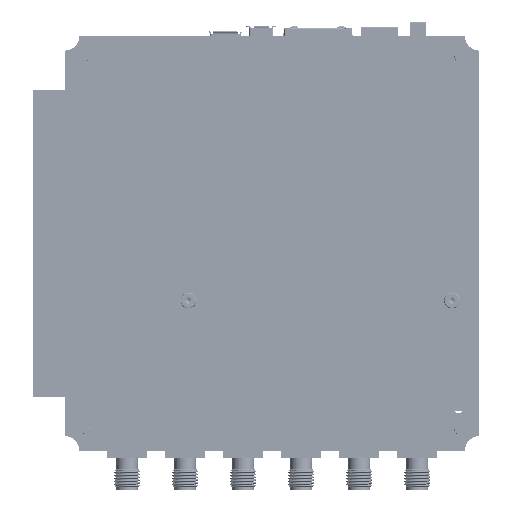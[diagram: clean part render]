
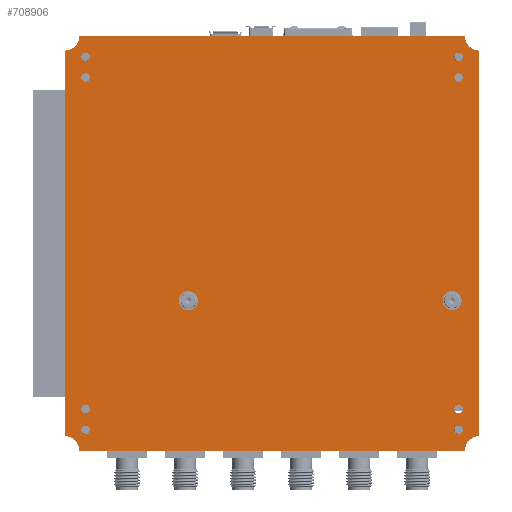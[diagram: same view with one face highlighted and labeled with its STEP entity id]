
A CAD part, front view. The second image highlights one B-rep face of the part: STEP entity #708906.
In plain terms, the highlighted planar face has unit normal (0, -1, 0) as drawn and (0, 0, -1) by its records, which use the part's own axes.
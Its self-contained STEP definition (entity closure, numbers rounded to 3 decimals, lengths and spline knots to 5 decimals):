
#14243=CIRCLE('',#783877,0.0035);
#14244=CIRCLE('',#783879,0.0035);
#14245=CIRCLE('',#783881,0.0035);
#14247=CIRCLE('',#783884,0.0035);
#14250=CIRCLE('',#783890,0.0023);
#14251=CIRCLE('',#783891,0.0023);
#14252=CIRCLE('',#783892,0.00103);
#14253=CIRCLE('',#783893,0.00103);
#14254=CIRCLE('',#783894,0.00103);
#14255=CIRCLE('',#783895,0.00103);
#14256=CIRCLE('',#783896,0.00103);
#14257=CIRCLE('',#783897,0.00103);
#14258=CIRCLE('',#783898,0.00103);
#14259=CIRCLE('',#783899,0.00103);
#51904=ORIENTED_EDGE('',*,*,#250876,.F.);
#51905=ORIENTED_EDGE('',*,*,#250877,.F.);
#51906=ORIENTED_EDGE('',*,*,#250878,.F.);
#51907=ORIENTED_EDGE('',*,*,#250879,.F.);
#51908=ORIENTED_EDGE('',*,*,#250880,.F.);
#51909=ORIENTED_EDGE('',*,*,#250881,.F.);
#51910=ORIENTED_EDGE('',*,*,#250882,.F.);
#51911=ORIENTED_EDGE('',*,*,#250883,.F.);
#51912=ORIENTED_EDGE('',*,*,#250884,.F.);
#51913=ORIENTED_EDGE('',*,*,#250885,.F.);
#51914=ORIENTED_EDGE('',*,*,#250862,.T.);
#51915=ORIENTED_EDGE('',*,*,#250871,.F.);
#51916=ORIENTED_EDGE('',*,*,#250867,.T.);
#51917=ORIENTED_EDGE('',*,*,#250776,.T.);
#51918=ORIENTED_EDGE('',*,*,#250865,.F.);
#51919=ORIENTED_EDGE('',*,*,#250786,.T.);
#51920=ORIENTED_EDGE('',*,*,#250864,.T.);
#51921=ORIENTED_EDGE('',*,*,#250839,.F.);
#250776=EDGE_CURVE('',#351470,#351469,#420215,.T.);
#250786=EDGE_CURVE('',#351480,#351479,#420225,.T.);
#250839=EDGE_CURVE('',#351525,#351526,#420260,.T.);
#250862=EDGE_CURVE('',#351525,#351540,#14243,.T.);
#250864=EDGE_CURVE('',#351479,#351526,#14244,.T.);
#250865=EDGE_CURVE('',#351480,#351469,#14245,.T.);
#250867=EDGE_CURVE('',#351541,#351470,#14247,.T.);
#250871=EDGE_CURVE('',#351541,#351540,#420281,.T.);
#250876=EDGE_CURVE('',#351546,#351546,#14250,.T.);
#250877=EDGE_CURVE('',#351547,#351547,#14251,.T.);
#250878=EDGE_CURVE('',#351548,#351548,#14252,.T.);
#250879=EDGE_CURVE('',#351549,#351549,#14253,.T.);
#250880=EDGE_CURVE('',#351550,#351550,#14254,.T.);
#250881=EDGE_CURVE('',#351551,#351551,#14255,.T.);
#250882=EDGE_CURVE('',#351552,#351552,#14256,.T.);
#250883=EDGE_CURVE('',#351553,#351553,#14257,.T.);
#250884=EDGE_CURVE('',#351554,#351554,#14258,.T.);
#250885=EDGE_CURVE('',#351555,#351555,#14259,.T.);
#351469=VERTEX_POINT('',#1050720);
#351470=VERTEX_POINT('',#1050722);
#351479=VERTEX_POINT('',#1050741);
#351480=VERTEX_POINT('',#1050743);
#351525=VERTEX_POINT('',#1050848);
#351526=VERTEX_POINT('',#1050850);
#351540=VERTEX_POINT('',#1050892);
#351541=VERTEX_POINT('',#1050901);
#351546=VERTEX_POINT('',#1050918);
#351547=VERTEX_POINT('',#1050920);
#351548=VERTEX_POINT('',#1050922);
#351549=VERTEX_POINT('',#1050924);
#351550=VERTEX_POINT('',#1050926);
#351551=VERTEX_POINT('',#1050928);
#351552=VERTEX_POINT('',#1050930);
#351553=VERTEX_POINT('',#1050932);
#351554=VERTEX_POINT('',#1050934);
#351555=VERTEX_POINT('',#1050936);
#420215=LINE('',#1050721,#507567);
#420225=LINE('',#1050742,#507577);
#420260=LINE('',#1050849,#507612);
#420281=LINE('',#1050908,#507633);
#507567=VECTOR('',#849691,1.);
#507577=VECTOR('',#849703,1.);
#507612=VECTOR('',#849790,1.);
#507633=VECTOR('',#849851,1.);
#591421=EDGE_LOOP('',(#51904));
#591422=EDGE_LOOP('',(#51905));
#591423=EDGE_LOOP('',(#51906));
#591424=EDGE_LOOP('',(#51907));
#591425=EDGE_LOOP('',(#51908));
#591426=EDGE_LOOP('',(#51909));
#591427=EDGE_LOOP('',(#51910));
#591428=EDGE_LOOP('',(#51911));
#591429=EDGE_LOOP('',(#51912));
#591430=EDGE_LOOP('',(#51913));
#591431=EDGE_LOOP('',(#51914,#51915,#51916,#51917,#51918,#51919,#51920,
#51921));
#633701=FACE_BOUND('',#591421,.T.);
#633702=FACE_BOUND('',#591422,.T.);
#633703=FACE_BOUND('',#591423,.T.);
#633704=FACE_BOUND('',#591424,.T.);
#633705=FACE_BOUND('',#591425,.T.);
#633706=FACE_BOUND('',#591426,.T.);
#633707=FACE_BOUND('',#591427,.T.);
#633708=FACE_BOUND('',#591428,.T.);
#633709=FACE_BOUND('',#591429,.T.);
#633710=FACE_BOUND('',#591430,.T.);
#633711=FACE_BOUND('',#591431,.T.);
#675317=PLANE('',#783889);
#708906=ADVANCED_FACE('',(#633701,#633702,#633703,#633704,#633705,#633706,
#633707,#633708,#633709,#633710,#633711),#675317,.F.);
#783877=AXIS2_PLACEMENT_3D('',#1050891,#849829,#849830);
#783879=AXIS2_PLACEMENT_3D('',#1050895,#849834,#849835);
#783881=AXIS2_PLACEMENT_3D('',#1050897,#849838,#849839);
#783884=AXIS2_PLACEMENT_3D('',#1050900,#849844,#849845);
#783889=AXIS2_PLACEMENT_3D('',#1050916,#849860,#849861);
#783890=AXIS2_PLACEMENT_3D('',#1050917,#849862,#849863);
#783891=AXIS2_PLACEMENT_3D('',#1050919,#849864,#849865);
#783892=AXIS2_PLACEMENT_3D('',#1050921,#849866,#849867);
#783893=AXIS2_PLACEMENT_3D('',#1050923,#849868,#849869);
#783894=AXIS2_PLACEMENT_3D('',#1050925,#849870,#849871);
#783895=AXIS2_PLACEMENT_3D('',#1050927,#849872,#849873);
#783896=AXIS2_PLACEMENT_3D('',#1050929,#849874,#849875);
#783897=AXIS2_PLACEMENT_3D('',#1050931,#849876,#849877);
#783898=AXIS2_PLACEMENT_3D('',#1050933,#849878,#849879);
#783899=AXIS2_PLACEMENT_3D('',#1050935,#849880,#849881);
#849691=DIRECTION('',(1.,0.,0.));
#849703=DIRECTION('',(0.,-1.,0.));
#849790=DIRECTION('',(1.,0.,0.));
#849829=DIRECTION('',(0.,0.,1.));
#849830=DIRECTION('',(1.,0.,0.));
#849834=DIRECTION('',(0.,0.,1.));
#849835=DIRECTION('',(1.,0.,0.));
#849838=DIRECTION('',(0.,0.,-1.));
#849839=DIRECTION('',(1.,0.,0.));
#849844=DIRECTION('',(0.,0.,1.));
#849845=DIRECTION('',(1.,0.,0.));
#849851=DIRECTION('',(0.,-1.,0.));
#849860=DIRECTION('',(0.,0.,1.));
#849861=DIRECTION('',(1.,0.,0.));
#849862=DIRECTION('',(0.,0.,-1.));
#849863=DIRECTION('',(-1.,0.,0.));
#849864=DIRECTION('',(0.,0.,-1.));
#849865=DIRECTION('',(-1.,0.,0.));
#849866=DIRECTION('',(0.,0.,-1.));
#849867=DIRECTION('',(-1.,0.,0.));
#849868=DIRECTION('',(0.,0.,-1.));
#849869=DIRECTION('',(-1.,0.,0.));
#849870=DIRECTION('',(0.,0.,-1.));
#849871=DIRECTION('',(-1.,0.,0.));
#849872=DIRECTION('',(0.,0.,-1.));
#849873=DIRECTION('',(-1.,0.,0.));
#849874=DIRECTION('',(0.,0.,-1.));
#849875=DIRECTION('',(-1.,0.,0.));
#849876=DIRECTION('',(0.,0.,-1.));
#849877=DIRECTION('',(-1.,0.,0.));
#849878=DIRECTION('',(0.,0.,-1.));
#849879=DIRECTION('',(-1.,0.,0.));
#849880=DIRECTION('',(0.,0.,-1.));
#849881=DIRECTION('',(-1.,0.,0.));
#1050720=CARTESIAN_POINT('',(0.0465,0.05,0.));
#1050721=CARTESIAN_POINT('',(0.,0.05,0.));
#1050722=CARTESIAN_POINT('',(-0.0465,0.05,0.));
#1050741=CARTESIAN_POINT('',(0.05,-0.0465,0.));
#1050742=CARTESIAN_POINT('',(0.05,0.,0.));
#1050743=CARTESIAN_POINT('',(0.05,0.0465,0.));
#1050848=CARTESIAN_POINT('',(-0.0465,-0.05,0.));
#1050849=CARTESIAN_POINT('',(0.,-0.05,0.));
#1050850=CARTESIAN_POINT('',(0.0465,-0.05,0.));
#1050891=CARTESIAN_POINT('',(-0.05,-0.05,0.));
#1050892=CARTESIAN_POINT('',(-0.05,-0.0465,0.));
#1050895=CARTESIAN_POINT('',(0.05,-0.05,0.));
#1050897=CARTESIAN_POINT('',(0.05,0.05,0.));
#1050900=CARTESIAN_POINT('',(-0.05,0.05,0.));
#1050901=CARTESIAN_POINT('',(-0.05,0.0465,0.));
#1050908=CARTESIAN_POINT('',(-0.05,0.,0.));
#1050916=CARTESIAN_POINT('',(0.,0.,0.));
#1050917=CARTESIAN_POINT('',(-0.0138,0.0434,0.));
#1050918=CARTESIAN_POINT('',(-0.0161,0.0434,0.));
#1050919=CARTESIAN_POINT('',(-0.0138,-0.0202,0.));
#1050920=CARTESIAN_POINT('',(-0.0161,-0.0202,0.));
#1050921=CARTESIAN_POINT('',(0.04,-0.045,0.));
#1050922=CARTESIAN_POINT('',(0.03898,-0.045,0.));
#1050923=CARTESIAN_POINT('',(-0.04,-0.045,0.));
#1050924=CARTESIAN_POINT('',(-0.04103,-0.045,0.));
#1050925=CARTESIAN_POINT('',(-0.045,-0.045,0.));
#1050926=CARTESIAN_POINT('',(-0.04603,-0.045,0.));
#1050927=CARTESIAN_POINT('',(-0.04,0.045,0.));
#1050928=CARTESIAN_POINT('',(-0.04103,0.045,0.));
#1050929=CARTESIAN_POINT('',(0.045,-0.045,0.));
#1050930=CARTESIAN_POINT('',(0.04398,-0.045,0.));
#1050931=CARTESIAN_POINT('',(0.045,0.045,0.));
#1050932=CARTESIAN_POINT('',(0.04398,0.045,0.));
#1050933=CARTESIAN_POINT('',(0.04,0.045,0.));
#1050934=CARTESIAN_POINT('',(0.03898,0.045,0.));
#1050935=CARTESIAN_POINT('',(-0.045,0.045,0.));
#1050936=CARTESIAN_POINT('',(-0.04603,0.045,0.));
